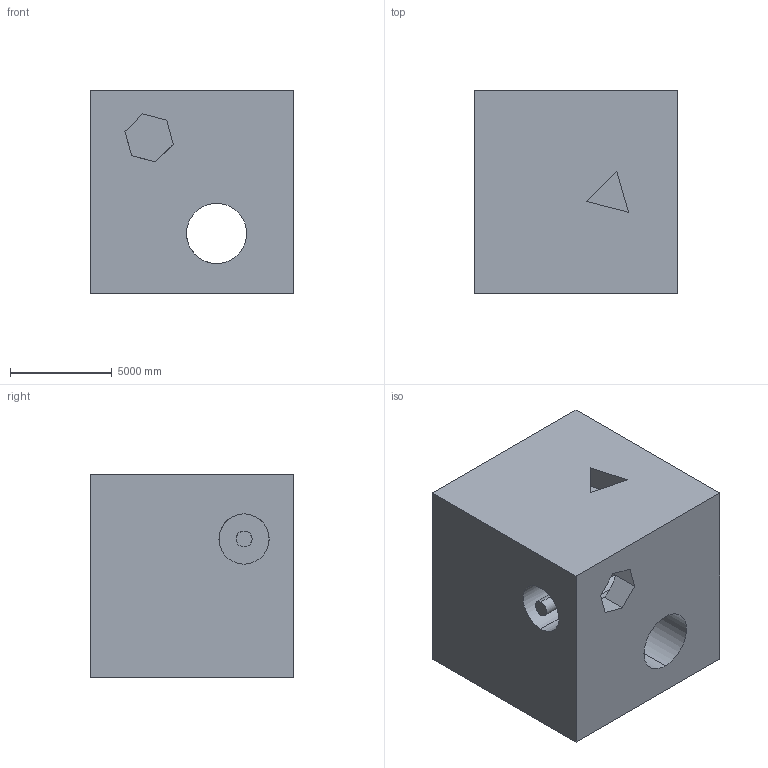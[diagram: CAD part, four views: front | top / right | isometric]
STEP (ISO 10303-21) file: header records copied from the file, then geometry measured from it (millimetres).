
FILE_DESCRIPTION (( 'STEP AP203' ), '1' );
FILE_NAME ('440.STEP', '2022-07-29T11:17:30', ( 'user' ), ( '' ), 'SwSTEP 2.0', 'SolidWorks 2021', '' );
FILE_SCHEMA (( 'CONFIG_CONTROL_DESIGN' ));
Length unit declared in the file: centimetre
Products named in the file (1): 440
Bounding box: 10000 x 10000 x 10000 mm (x, y, z)
Volume: 848994713076.8 mm3; surface area: 818571274.7 mm2
Topology: 1 solids, 1 shells, 37 faces, 99 edges, 66 vertices
Faces by surface type: plane 31, cylinder 6
Entity records: 1232 total; most frequent: CARTESIAN_POINT 251, ORIENTED_EDGE 198, DIRECTION 173, EDGE_CURVE 99, LINE 69, VECTOR 69, VERTEX_POINT 66, AXIS2_PLACEMENT_3D 52
